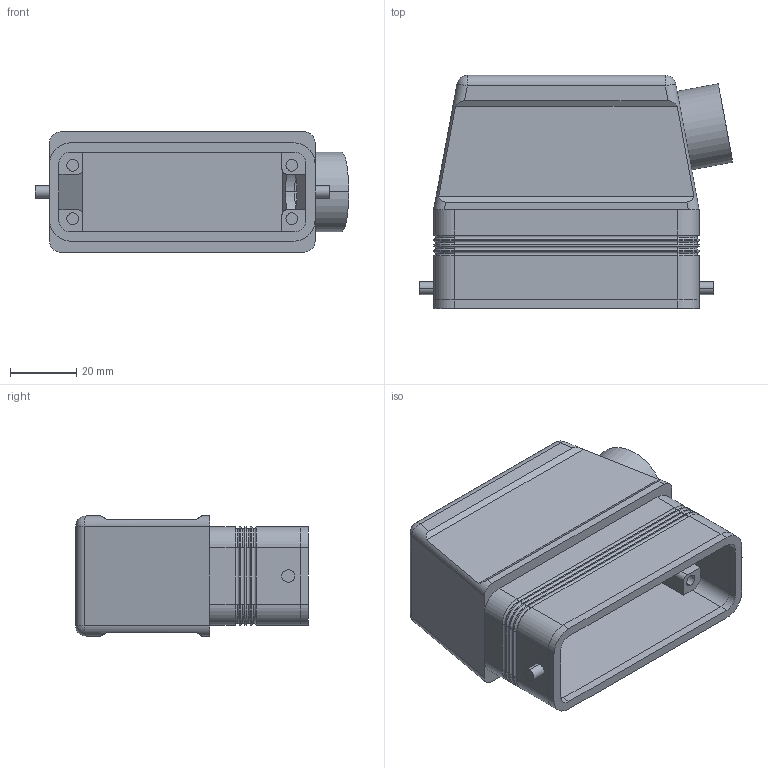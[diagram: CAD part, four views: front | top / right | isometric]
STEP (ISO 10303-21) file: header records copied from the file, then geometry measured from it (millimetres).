
FILE_DESCRIPTION (( 'STEP AP214' ), '1' );
FILE_NAME ('CZAO-25L16.STEP', '2006-07-06T14:20:31', ( 'Mencom User' ), ( 'Mencom Corporation' ), 'SwSTEP 2.0', 'SolidWorks 2006104', '' );
FILE_SCHEMA (( 'AUTOMOTIVE_DESIGN' ));
Length unit declared in the file: inch
Products named in the file (1): CZAO-25L16
Bounding box: 94.33 x 70.1 x 36.2 mm (x, y, z)
Volume: 62433.9 mm3; surface area: 35674.4 mm2
Topology: 2 solids, 2 shells, 194 faces, 462 edges, 276 vertices
Faces by surface type: cylinder 84, plane 74, torus 32, sphere 4
Entity records: 5858 total; most frequent: CARTESIAN_POINT 1029, DIRECTION 1028, ORIENTED_EDGE 916, EDGE_CURVE 458, AXIS2_PLACEMENT_3D 397, VERTEX_POINT 276, VECTOR 234, LINE 234
